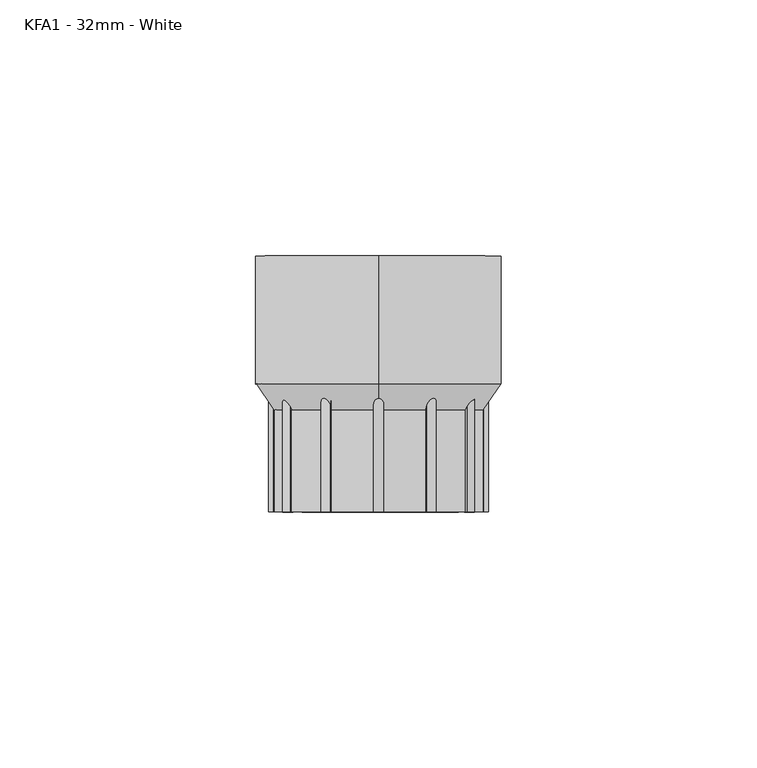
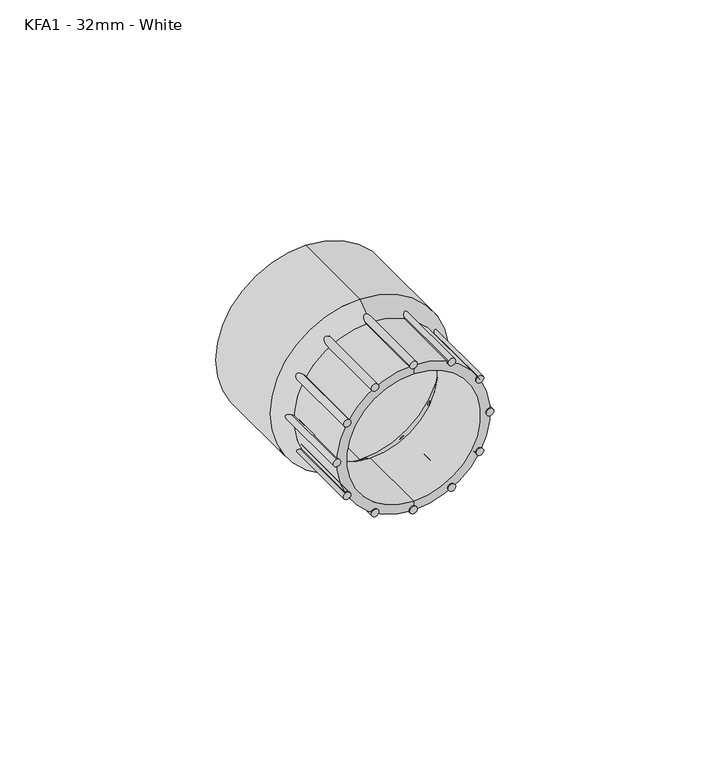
"""IFC4 building model written with IfcOpenShell, lengths in millimetres: pipe fitting geometry, MarleyPlumbingAndDrainage_PipeFitting_FemaleIronAdaptor : KFA1 - 32mm - White."""

from ifc_helpers import new_model, si_unit, point, frame, frame_2d, origin, place, context, project, spatial, polyline, circle_curve, trimmed, segment, composite_curve, outline, extrude, source, transform, mapped, element, save
from ifc_brep_helpers import plane_surface, cylinder_surface, revolved_surface, advanced_brep


def kfa1_32mm_white_d1753785(model_context):
    return source(origin(), model_context, "Body", "SolidModel", [
        extrude(outline(composite_curve([segment(trimmed(circle_curve(frame_2d((10.25, 2.928139)), 1.0), [point((11.1160254, 2.428139))], [point((9.3839746, 3.428139))], False, "CARTESIAN"), True, "CONTINUOUS"), segment(trimmed(circle_curve(frame_2d((10.25, 2.928139)), 1.0), [point((9.3839746, 3.428139))], [point((11.1160254, 2.428139))], False, "CARTESIAN"), True, "CONTINUOUS")], self_intersect=False)), frame((0.0, -25.0, 0.0), z_axis=(0.0, 1.0, 0.0), x_axis=(0.0, 0.0, 1.0)), (0.0, 0.0, 1.0), 22.5),
        extrude(outline(composite_curve([segment(trimmed(circle_curve(frame_2d((0.0, 5.6746182)), 1.0), [point((1.0, 5.6746182))], [point((-1.0, 5.6746182))], False, "CARTESIAN"), True, "CONTINUOUS"), segment(trimmed(circle_curve(frame_2d((0.0, 5.6746182)), 1.0), [point((-1.0, 5.6746182))], [point((1.0, 5.6746182))], False, "CARTESIAN"), True, "CONTINUOUS")], self_intersect=False)), frame((0.0, -25.0, 0.0), z_axis=(0.0, 1.0, 0.0), x_axis=(0.0, 0.0, 1.0)), (0.0, 0.0, 1.0), 22.5),
        extrude(outline(composite_curve([segment(trimmed(circle_curve(frame_2d((-10.25, 2.928139)), 1.0), [point((-9.3839746, 3.428139))], [point((-11.1160254, 2.428139))], False, "CARTESIAN"), True, "CONTINUOUS"), segment(trimmed(circle_curve(frame_2d((-10.25, 2.928139)), 1.0), [point((-11.1160254, 2.428139))], [point((-9.3839746, 3.428139))], False, "CARTESIAN"), True, "CONTINUOUS")], self_intersect=False)), frame((0.0, -25.0, 0.0), z_axis=(0.0, 1.0, 0.0), x_axis=(0.0, 0.0, 1.0)), (0.0, 0.0, 1.0), 22.5),
        extrude(outline(composite_curve([segment(trimmed(circle_curve(frame_2d((-17.7535208, -4.5753818)), 1.0), [point((-17.2535208, -3.7093564))], [point((-18.2535208, -5.4414072))], False, "CARTESIAN"), True, "CONTINUOUS"), segment(trimmed(circle_curve(frame_2d((-17.7535208, -4.5753818)), 1.0), [point((-18.2535208, -5.4414072))], [point((-17.2535208, -3.7093564))], False, "CARTESIAN"), True, "CONTINUOUS")], self_intersect=False)), frame((0.0, -25.0, 0.0), z_axis=(0.0, 1.0, 0.0), x_axis=(0.0, 0.0, 1.0)), (0.0, 0.0, 1.0), 22.5),
        extrude(outline(composite_curve([segment(trimmed(circle_curve(frame_2d((-20.5, -14.8253818)), 1.0), [point((-20.5, -13.8253818))], [point((-20.5, -15.8253818))], False, "CARTESIAN"), True, "CONTINUOUS"), segment(trimmed(circle_curve(frame_2d((-20.5, -14.8253818)), 1.0), [point((-20.5, -15.8253818))], [point((-20.5, -13.8253818))], False, "CARTESIAN"), True, "CONTINUOUS")], self_intersect=False)), frame((0.0, -25.0, 0.0), z_axis=(0.0, 1.0, 0.0), x_axis=(0.0, 0.0, 1.0)), (0.0, 0.0, 1.0), 22.5),
        extrude(outline(composite_curve([segment(trimmed(circle_curve(frame_2d((-17.7535208, -25.0753818)), 1.0), [point((-18.2535208, -24.2093564))], [point((-17.2535208, -25.9414072))], False, "CARTESIAN"), True, "CONTINUOUS"), segment(trimmed(circle_curve(frame_2d((-17.7535208, -25.0753818)), 1.0), [point((-17.2535208, -25.9414072))], [point((-18.2535208, -24.2093564))], False, "CARTESIAN"), True, "CONTINUOUS")], self_intersect=False)), frame((0.0, -25.0, 0.0), z_axis=(0.0, 1.0, 0.0), x_axis=(0.0, 0.0, 1.0)), (0.0, 0.0, 1.0), 22.5),
        extrude(outline(composite_curve([segment(trimmed(circle_curve(frame_2d((-10.25, -32.5789026)), 1.0), [point((-11.1160254, -32.0789026))], [point((-9.3839746, -33.0789026))], False, "CARTESIAN"), True, "CONTINUOUS"), segment(trimmed(circle_curve(frame_2d((-10.25, -32.5789026)), 1.0), [point((-9.3839746, -33.0789026))], [point((-11.1160254, -32.0789026))], False, "CARTESIAN"), True, "CONTINUOUS")], self_intersect=False)), frame((0.0, -25.0, 0.0), z_axis=(0.0, 1.0, 0.0), x_axis=(0.0, 0.0, 1.0)), (0.0, 0.0, 1.0), 22.5),
        extrude(outline(composite_curve([segment(trimmed(circle_curve(frame_2d((0.0, -35.3253818)), 1.0), [point((-1.0, -35.3253818))], [point((1.0, -35.3253818))], False, "CARTESIAN"), True, "CONTINUOUS"), segment(trimmed(circle_curve(frame_2d((0.0, -35.3253818)), 1.0), [point((1.0, -35.3253818))], [point((-1.0, -35.3253818))], False, "CARTESIAN"), True, "CONTINUOUS")], self_intersect=False)), frame((0.0, -25.0, 0.0), z_axis=(0.0, 1.0, 0.0), x_axis=(0.0, 0.0, 1.0)), (0.0, 0.0, 1.0), 22.5),
        extrude(outline(composite_curve([segment(trimmed(circle_curve(frame_2d((10.25, -32.5789026)), 1.0), [point((9.3839746, -33.0789026))], [point((11.1160254, -32.0789026))], False, "CARTESIAN"), True, "CONTINUOUS"), segment(trimmed(circle_curve(frame_2d((10.25, -32.5789026)), 1.0), [point((11.1160254, -32.0789026))], [point((9.3839746, -33.0789026))], False, "CARTESIAN"), True, "CONTINUOUS")], self_intersect=False)), frame((0.0, -25.0, 0.0), z_axis=(0.0, 1.0, 0.0), x_axis=(0.0, 0.0, 1.0)), (0.0, 0.0, 1.0), 22.5),
        extrude(outline(composite_curve([segment(trimmed(circle_curve(frame_2d((17.7535208, -25.0753818)), 1.0), [point((17.2535208, -25.9414072))], [point((18.2535208, -24.2093564))], False, "CARTESIAN"), True, "CONTINUOUS"), segment(trimmed(circle_curve(frame_2d((17.7535208, -25.0753818)), 1.0), [point((18.2535208, -24.2093564))], [point((17.2535208, -25.9414072))], False, "CARTESIAN"), True, "CONTINUOUS")], self_intersect=False)), frame((0.0, -25.0, 0.0), z_axis=(0.0, 1.0, 0.0), x_axis=(0.0, 0.0, 1.0)), (0.0, 0.0, 1.0), 22.5),
        extrude(outline(composite_curve([segment(trimmed(circle_curve(frame_2d((17.7535208, -4.5753818)), 1.0), [point((18.2535208, -5.4414072))], [point((17.2535208, -3.7093564))], False, "CARTESIAN"), True, "CONTINUOUS"), segment(trimmed(circle_curve(frame_2d((17.7535208, -4.5753818)), 1.0), [point((17.2535208, -3.7093564))], [point((18.2535208, -5.4414072))], False, "CARTESIAN"), True, "CONTINUOUS")], self_intersect=False)), frame((0.0, -25.0, 0.0), z_axis=(0.0, 1.0, 0.0), x_axis=(0.0, 0.0, 1.0)), (0.0, 0.0, 1.0), 22.5),
        extrude(outline(composite_curve([segment(trimmed(circle_curve(frame_2d((20.5, -14.8253818)), 1.0), [point((20.5, -15.8253818))], [point((20.5, -13.8253818))], False, "CARTESIAN"), True, "CONTINUOUS"), segment(trimmed(circle_curve(frame_2d((20.5, -14.8253818)), 1.0), [point((20.5, -13.8253818))], [point((20.5, -15.8253818))], False, "CARTESIAN"), True, "CONTINUOUS")], self_intersect=False)), frame((0.0, -25.0, 0.0), z_axis=(0.0, 1.0, 0.0), x_axis=(0.0, 0.0, 1.0)), (0.0, 0.0, 1.0), 22.5),
        advanced_brep(
        [(-14.8253818, -25.0, -18.0), (-14.8253818, -25.0, 18.0), (-14.8253818, -25.0, 20.5), (-14.8253818, -25.0, -20.5), (-14.8253818, -5.0, -18.0), (-14.8253818, -5.0, 18.0), (-14.8253818, 0.0, -21.5), (-14.8253818, 0.0, 21.5), (-14.8253818, 25.0, -21.5), (-14.8253818, 25.0, 21.5), (-14.8253818, 25.0, -24.0), (-14.8253818, 25.0, 24.0), (-14.8253818, 0.0, -24.0), (-14.8253818, 0.0, 24.0), (-14.8253818, -5.0, -20.5), (-14.8253818, -5.0, 20.5)],
        [
            (0, 1, circle_curve(frame((-14.8253818, -25.0, 0.0), z_axis=(0.0, 1.0, 0.0), x_axis=(0.0, 0.0, 1.0)), 18.0)),
            (1, 2),
            (2, 3, circle_curve(frame((-14.8253818, -25.0, 0.0), z_axis=(0.0, -1.0, 0.0), x_axis=(0.0, 0.0, 1.0)), 20.5)),
            (3, 0),
            (1, 0, circle_curve(frame((-14.8253818, -25.0, 0.0), z_axis=(0.0, 1.0, 0.0), x_axis=(0.0, 0.0, 1.0)), 18.0)),
            (3, 2, circle_curve(frame((-14.8253818, -25.0, 0.0), z_axis=(0.0, -1.0, 0.0), x_axis=(0.0, 0.0, 1.0)), 20.5)),
            (4, 5, circle_curve(frame((-14.8253818, -5.0, 0.0), z_axis=(0.0, 1.0, 0.0), x_axis=(0.0, 0.0, 1.0)), 18.0)),
            (5, 1),
            (0, 4),
            (5, 4, circle_curve(frame((-14.8253818, -5.0, 0.0), z_axis=(0.0, 1.0, 0.0), x_axis=(0.0, 0.0, 1.0)), 18.0)),
            (6, 7, circle_curve(frame((-14.8253818, 0.0, 0.0), z_axis=(0.0, 1.0, 0.0), x_axis=(0.0, 0.0, 1.0)), 21.5)),
            (7, 5),
            (4, 6),
            (7, 6, circle_curve(frame((-14.8253818, 0.0, 0.0), z_axis=(0.0, 1.0, 0.0), x_axis=(0.0, 0.0, 1.0)), 21.5)),
            (8, 9, circle_curve(frame((-14.8253818, 25.0, 0.0), z_axis=(0.0, 1.0, 0.0), x_axis=(0.0, 0.0, 1.0)), 21.5)),
            (9, 7),
            (6, 8),
            (9, 8, circle_curve(frame((-14.8253818, 25.0, 0.0), z_axis=(0.0, 1.0, 0.0), x_axis=(0.0, 0.0, 1.0)), 21.5)),
            (10, 11, circle_curve(frame((-14.8253818, 25.0, 0.0), z_axis=(0.0, 1.0, 0.0), x_axis=(0.0, 0.0, 1.0)), 24.0)),
            (11, 9),
            (8, 10),
            (11, 10, circle_curve(frame((-14.8253818, 25.0, 0.0), z_axis=(0.0, 1.0, 0.0), x_axis=(0.0, 0.0, 1.0)), 24.0)),
            (12, 13, circle_curve(frame((-14.8253818, 0.0, 0.0), z_axis=(0.0, 1.0, 0.0), x_axis=(0.0, 0.0, 1.0)), 24.0)),
            (13, 11),
            (10, 12),
            (13, 12, circle_curve(frame((-14.8253818, 0.0, 0.0), z_axis=(0.0, 1.0, 0.0), x_axis=(0.0, 0.0, 1.0)), 24.0)),
            (14, 15, circle_curve(frame((-14.8253818, -5.0, 0.0), z_axis=(0.0, 1.0, 0.0), x_axis=(0.0, 0.0, 1.0)), 20.5)),
            (15, 13),
            (12, 14),
            (15, 14, circle_curve(frame((-14.8253818, -5.0, 0.0), z_axis=(0.0, 1.0, 0.0), x_axis=(0.0, 0.0, 1.0)), 20.5)),
            (2, 15),
            (14, 3),
        ],
        [
            plane_surface(frame((-14.8253818, -25.0, 0.0), z_axis=(0.0, -1.0, 0.0), x_axis=(0.0, 0.0, 1.0))),
            revolved_surface(polyline([(-14.8253818, -25.0, 18.0), (-14.8253818, -5.0, 18.0)]), (-14.8253818, 1632.5437807, 0.0), (0.0, -1.0, 0.0)),
            revolved_surface(polyline([(-14.8253818, -5.0, 18.0), (-14.8253818, 0.0, 21.5)]), (-14.8253818, 1632.5437807, 0.0), (0.0, -1.0, 0.0)),
            revolved_surface(polyline([(-14.8253818, 0.0, 21.5), (-14.8253818, 25.0, 21.5)]), (-14.8253818, 1632.5437807, 0.0), (0.0, -1.0, 0.0)),
            plane_surface(frame((-14.8253818, 25.0, 0.0), z_axis=(0.0, 1.0, 0.0), x_axis=(0.0, 0.0, 1.0))),
            cylinder_surface(frame((-14.8253818, 1632.5437807, 0.0), z_axis=(0.0, -1.0, 0.0), x_axis=(0.0, 0.0, 1.0)), 24.0),
            revolved_surface(polyline([(-14.8253818, 0.0, 24.0), (-14.8253818, -5.0, 20.5)]), (-14.8253818, 1632.5437807, 0.0), (0.0, -1.0, 0.0)),
            cylinder_surface(frame((-14.8253818, 1632.5437807, 0.0), z_axis=(0.0, -1.0, 0.0), x_axis=(0.0, 0.0, 1.0)), 20.5),
        ],
        [
            (0, [[1, 2, 3, 4]]),
            (0, [[5, -4, 6, -2]]),
            (1, [[7, 8, -1, 9]]),
            (1, [[10, -9, -5, -8]]),
            (2, [[11, 12, -7, 13]]),
            (2, [[14, -13, -10, -12]]),
            (3, [[15, 16, -11, 17]]),
            (3, [[18, -17, -14, -16]]),
            (4, [[19, 20, -15, 21]]),
            (4, [[22, -21, -18, -20]]),
            (5, [[23, 24, -19, 25]]),
            (5, [[26, -25, -22, -24]]),
            (6, [[27, 28, -23, 29]]),
            (6, [[30, -29, -26, -28]]),
            (7, [[-3, 31, -27, 32]]),
            (7, [[-6, -32, -30, -31]]),
        ],
    ),
    ])


if __name__ == "__main__":
    model = new_model("IFC4")
    model_context = context("Model", 3, world=origin())
    ifc_project = project(units=[si_unit("LENGTHUNIT", "METRE", prefix="MILLI")], contexts=[model_context])
    site = spatial("IfcSite", under=ifc_project)
    building = spatial("IfcBuilding", under=site)
    placement = place(None, origin())
    kfa1_32mm_white_shape = kfa1_32mm_white_d1753785(model_context)
    element("IfcPipeFitting", 1, ObjectType="MarleyPlumbingAndDrainage_PipeFitting_FemaleIronAdaptor : KFA1 - 32mm - White", at=placement, inside=building, context=model_context, shape_type="MappedRepresentation", body=[
        mapped(kfa1_32mm_white_shape, transform((0.0, 0.0, 0.0), x_axis=(1.0, 0.0, 0.0), y_axis=(0.0, 1.0, 0.0), z_axis=(0.0, 0.0, 1.0))),
    ])
    save(model, "model.ifc")
